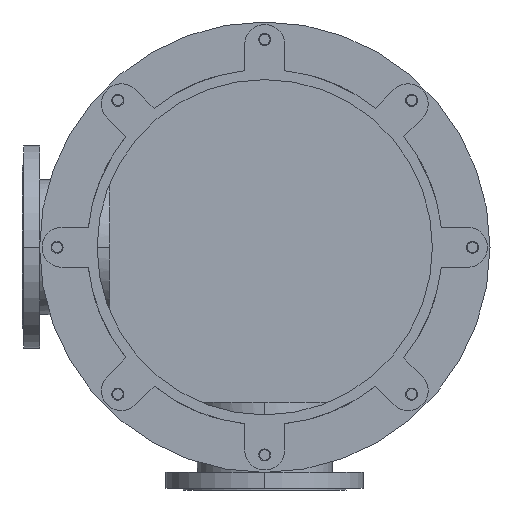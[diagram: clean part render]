
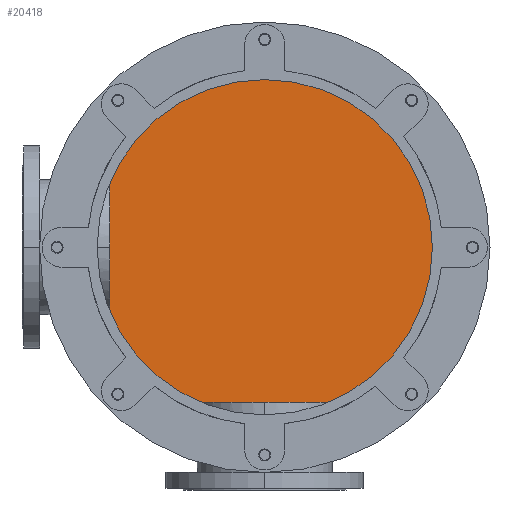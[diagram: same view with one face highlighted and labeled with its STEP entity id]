
A CAD part, front view. The second image highlights one B-rep face of the part: STEP entity #20418.
In plain terms, the highlighted planar face has unit normal (0, -1, 0).
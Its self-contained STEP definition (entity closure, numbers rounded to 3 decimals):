
#3739=CARTESIAN_POINT('',(0.,1204.,0.));
#3740=DIRECTION('',(0.,-1.,0.));
#3741=DIRECTION('',(0.,0.,-1.));
#3742=AXIS2_PLACEMENT_3D('',#3739,#3740,#3741);
#3926=CARTESIAN_POINT('',(0.,1204.,0.));
#3927=DIRECTION('',(0.,-1.,0.));
#3928=DIRECTION('',(0.,0.,1.));
#3929=AXIS2_PLACEMENT_3D('',#3926,#3927,#3928);
#9222=CARTESIAN_POINT('',(0.,1204.,350.));
#9223=CARTESIAN_POINT('',(0.,1204.,-350.));
#9224=VERTEX_POINT('',#9222);
#9225=VERTEX_POINT('',#9223);
#20409=CARTESIAN_POINT('',(0.,1204.,0.));
#20410=DIRECTION('',(0.,1.,0.));
#20411=DIRECTION('',(0.,0.,-1.));
#20412=AXIS2_PLACEMENT_3D('',#20409,#20410,#20411);
#20413=PLANE('',#20412);
#20414=ORIENTED_EDGE('',*,*,#15820,.F.);
#20415=ORIENTED_EDGE('',*,*,#15677,.F.);
#20416=EDGE_LOOP('',(#20414,#20415));
#20417=FACE_OUTER_BOUND('',#20416,.F.);
#20418=ADVANCED_FACE('',(#20417),#20413,.F.);
#3743=CIRCLE('',#3742,350.);
#3930=CIRCLE('',#3929,350.);
#15677=EDGE_CURVE('',#9225,#9224,#3743,.T.);
#15820=EDGE_CURVE('',#9224,#9225,#3930,.T.);
